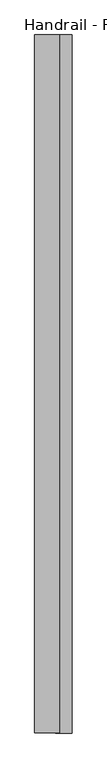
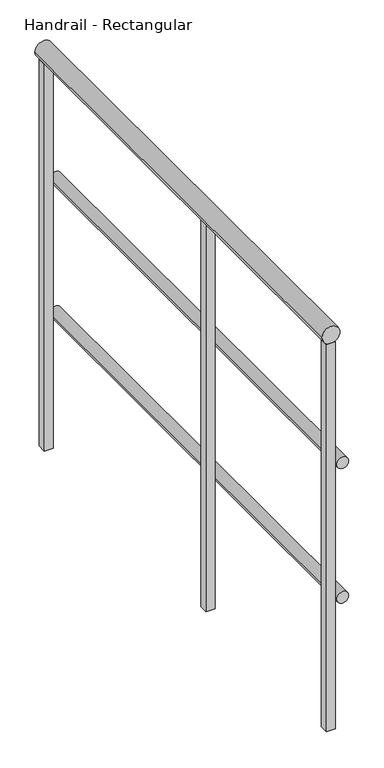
"""IFC4 building model written with IfcOpenShell, lengths in millimetres: railing geometry, Handrail - Rectangular."""

from ifc_helpers import new_model, si_unit, point, frame, frame_2d, origin, place, context, project, spatial, polyline, circle_curve, trimmed, segment, composite_curve, outline, extrude, source, transform, mapped, element, save


def handrail_rectangular_91c8e9b7(model_context):
    return source(origin(), model_context, "Body", "SweptSolid", [
        extrude(outline(composite_curve([segment(trimmed(circle_curve(frame_2d((9740.9, 2322.5410437)), 12.7), [point((9740.9, 2335.2410437))], [point((9740.9, 2309.8410437))], False, "CARTESIAN"), True, "CONTINUOUS"), segment(trimmed(circle_curve(frame_2d((9740.9, 2322.5410437)), 12.7), [point((9740.9, 2309.8410437))], [point((9740.9, 2335.2410437))], False, "CARTESIAN"), True, "CONTINUOUS")], self_intersect=False)), frame((0.0, 10674.8316867, 0.0), z_axis=(0.0, 1.0, 0.0), x_axis=(0.0, 0.0, 1.0)), (0.0, 0.0, 1.0), 1066.8),
        extrude(outline(composite_curve([segment(trimmed(circle_curve(frame_2d((9436.1, 2322.5410437)), 12.7), [point((9436.1, 2335.2410437))], [point((9436.1, 2309.8410437))], False, "CARTESIAN"), True, "CONTINUOUS"), segment(trimmed(circle_curve(frame_2d((9436.1, 2322.5410437)), 12.7), [point((9436.1, 2309.8410437))], [point((9436.1, 2335.2410437))], False, "CARTESIAN"), True, "CONTINUOUS")], self_intersect=False)), frame((0.0, 10674.8316867, 0.0), z_axis=(0.0, 1.0, 0.0), x_axis=(0.0, 0.0, 1.0)), (0.0, 0.0, 1.0), 1066.8),
        extrude(outline(composite_curve([segment(trimmed(circle_curve(frame_2d((10039.35, 2297.1410437)), 19.05), [point((10039.35, 2316.1910437))], [point((10039.35, 2278.0910437))], False, "CARTESIAN"), True, "CONTINUOUS"), segment(trimmed(circle_curve(frame_2d((10039.35, 2297.1410437)), 19.05), [point((10039.35, 2278.0910437))], [point((10039.35, 2316.1910437))], False, "CARTESIAN"), True, "CONTINUOUS")], self_intersect=False)), frame((0.0, 10674.8316867, 0.0), z_axis=(0.0, 1.0, 0.0), x_axis=(0.0, 0.0, 1.0)), (0.0, 0.0, 1.0), 1066.8),
        extrude(outline(polyline([(2287.6160437, 11141.5566867), (2306.6660437, 11141.5566867), (2306.6660437, 11122.5066867), (2287.6160437, 11122.5066867), (2287.6160437, 11141.5566867)])), frame((0.0, 0.0, 9144.0), z_axis=(0.0, 0.0, 1.0), x_axis=(1.0, 0.0, 0.0)), (0.0, 0.0, 1.0), 876.3),
        extrude(outline(polyline([(2287.6160437, 10693.8816867), (2306.6660437, 10693.8816867), (2306.6660437, 10674.8316867), (2287.6160437, 10674.8316867), (2287.6160437, 10693.8816867)])), frame((0.0, 0.0, 9144.0), z_axis=(0.0, 0.0, 1.0), x_axis=(1.0, 0.0, 0.0)), (0.0, 0.0, 1.0), 876.3),
        extrude(outline(polyline([(2287.6160437, 11741.6316867), (2306.6660437, 11741.6316867), (2306.6660437, 11722.5816867), (2287.6160437, 11722.5816867), (2287.6160437, 11741.6316867)])), frame((0.0, 0.0, 9144.0), z_axis=(0.0, 0.0, 1.0), x_axis=(1.0, 0.0, 0.0)), (0.0, 0.0, 1.0), 876.3),
    ])


if __name__ == "__main__":
    model = new_model("IFC4")
    model_context = context("Model", 3, world=origin())
    ifc_project = project(units=[si_unit("LENGTHUNIT", "METRE", prefix="MILLI")], contexts=[model_context])
    site = spatial("IfcSite", under=ifc_project)
    building = spatial("IfcBuilding", under=site)
    placement = place(None, origin())
    handrail_rectangular_shape = handrail_rectangular_91c8e9b7(model_context)
    element("IfcRailing", 1, ObjectType="Handrail - Rectangular", at=placement, inside=building, context=model_context, shape_type="MappedRepresentation", body=[
        mapped(handrail_rectangular_shape, transform((0.0, 0.0, 0.0), x_axis=(1.0, 0.0, 0.0), y_axis=(0.0, 1.0, 0.0), z_axis=(0.0, 0.0, 1.0))),
    ])
    save(model, "model.ifc")
